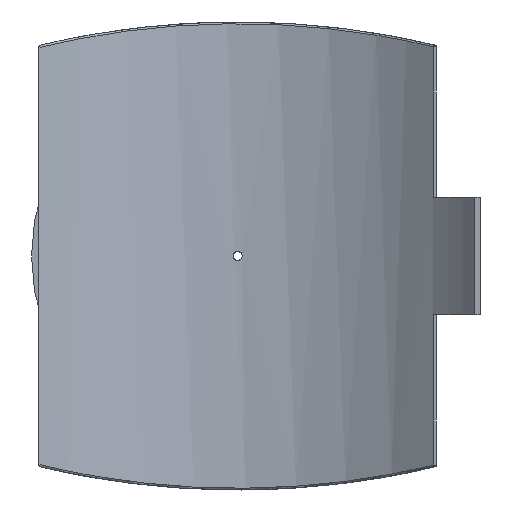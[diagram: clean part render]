
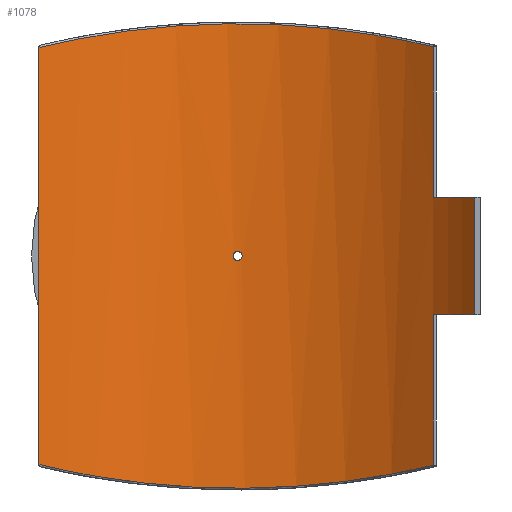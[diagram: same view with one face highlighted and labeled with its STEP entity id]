
A CAD part, front view. The second image highlights one B-rep face of the part: STEP entity #1078.
In plain terms, the highlighted cylindrical face has radius 355 mm (diameter 710 mm), a partial arc.
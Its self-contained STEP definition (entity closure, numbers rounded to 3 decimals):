
#55=FACE_BOUND('',#355,.T.);
#109=B_SPLINE_CURVE_WITH_KNOTS('',3,(#2210,#2211,#2212,#2213,#2214,#2215,
#2216,#2217,#2218,#2219),.UNSPECIFIED.,.F.,.F.,(4,1,1,1,1,1,1,4),(-55.85,
-48.857,-41.864,-34.871,-27.877,
-20.884,-13.891,-6.898),.UNSPECIFIED.);
#110=B_SPLINE_CURVE_WITH_KNOTS('',3,(#2228,#2229,#2230,#2231,#2232,#2233,
#2234,#2235,#2236,#2237),.UNSPECIFIED.,.F.,.F.,(4,1,1,1,1,1,1,4),(-50.886,
-43.893,-36.9,-29.907,-22.914,
-15.921,-8.927,-1.934),.UNSPECIFIED.);
#111=B_SPLINE_CURVE_WITH_KNOTS('',3,(#2240,#2241,#2242,#2243,#2244,#2245,
#2246,#2247,#2248,#2249),.UNSPECIFIED.,.F.,.F.,(4,2,2,2,4),(0.,0.196,
0.392,0.588,0.784),.UNSPECIFIED.);
#112=B_SPLINE_CURVE_WITH_KNOTS('',3,(#2250,#2251,#2252,#2253,#2254,#2255,
#2256,#2257,#2258,#2259,#2260,#2261,#2262,#2263,#2264,#2265,#2266,#2267,
#2268,#2269,#2270,#2271,#2272,#2273,#2274,#2275),.UNSPECIFIED.,.F.,.F.,
(4,2,2,2,2,2,2,2,2,2,2,2,4),(0.784,0.979,1.175,
1.371,1.567,1.763,1.959,2.155,
2.351,2.546,2.742,2.938,3.134),
 .UNSPECIFIED.);
#133=LINE('',#1615,#184);
#144=LINE('',#1899,#195);
#151=LINE('',#2224,#202);
#152=LINE('',#2227,#203);
#184=VECTOR('',#1292,10.);
#195=VECTOR('',#1331,10.);
#202=VECTOR('',#1368,10.);
#203=VECTOR('',#1371,10.);
#244=CYLINDRICAL_SURFACE('',#1175,355.);
#288=FACE_OUTER_BOUND('',#354,.T.);
#354=EDGE_LOOP('',(#839,#840,#841,#842,#843,#844,#845,#846));
#355=EDGE_LOOP('',(#847,#848));
#449=CIRCLE('',#1176,355.);
#450=CIRCLE('',#1177,355.);
#510=VERTEX_POINT('',#1606);
#513=VERTEX_POINT('',#1613);
#533=VERTEX_POINT('',#1892);
#536=VERTEX_POINT('',#1897);
#549=VERTEX_POINT('',#2193);
#550=VERTEX_POINT('',#2221);
#551=VERTEX_POINT('',#2223);
#552=VERTEX_POINT('',#2226);
#553=VERTEX_POINT('',#2238);
#554=VERTEX_POINT('',#2239);
#613=EDGE_CURVE('',#513,#510,#133,.T.);
#643=EDGE_CURVE('',#536,#533,#144,.T.);
#666=EDGE_CURVE('',#549,#536,#109,.T.);
#667=EDGE_CURVE('',#550,#513,#449,.T.);
#668=EDGE_CURVE('',#550,#551,#151,.T.);
#669=EDGE_CURVE('',#533,#551,#450,.T.);
#670=EDGE_CURVE('',#552,#549,#152,.T.);
#671=EDGE_CURVE('',#510,#552,#110,.T.);
#672=EDGE_CURVE('',#553,#554,#111,.T.);
#673=EDGE_CURVE('',#554,#553,#112,.T.);
#839=ORIENTED_EDGE('',*,*,#667,.F.);
#840=ORIENTED_EDGE('',*,*,#668,.T.);
#841=ORIENTED_EDGE('',*,*,#669,.F.);
#842=ORIENTED_EDGE('',*,*,#643,.F.);
#843=ORIENTED_EDGE('',*,*,#666,.F.);
#844=ORIENTED_EDGE('',*,*,#670,.F.);
#845=ORIENTED_EDGE('',*,*,#671,.F.);
#846=ORIENTED_EDGE('',*,*,#613,.F.);
#847=ORIENTED_EDGE('',*,*,#672,.T.);
#848=ORIENTED_EDGE('',*,*,#673,.T.);
#1078=ADVANCED_FACE('',(#288,#55),#244,.F.);
#1175=AXIS2_PLACEMENT_3D('',#2220,#1364,#1365);
#1176=AXIS2_PLACEMENT_3D('',#2222,#1366,#1367);
#1177=AXIS2_PLACEMENT_3D('',#2225,#1369,#1370);
#1292=DIRECTION('',(0.,0.,-1.));
#1331=DIRECTION('',(0.,0.,-1.));
#1364=DIRECTION('center_axis',(0.,0.,1.));
#1365=DIRECTION('ref_axis',(-1.,0.,0.));
#1366=DIRECTION('center_axis',(0.,0.,1.));
#1367=DIRECTION('ref_axis',(-0.756,-0.655,0.));
#1368=DIRECTION('',(0.,0.,1.));
#1369=DIRECTION('center_axis',(0.,0.,-1.));
#1370=DIRECTION('ref_axis',(-0.756,-0.655,0.));
#1371=DIRECTION('',(0.,0.,1.));
#1606=CARTESIAN_POINT('',(221.751,277.221,-236.92));
#1613=CARTESIAN_POINT('',(221.751,277.221,-66.25));
#1615=CARTESIAN_POINT('',(221.751,277.221,0.));
#1892=CARTESIAN_POINT('',(221.751,277.221,66.25));
#1897=CARTESIAN_POINT('',(221.751,277.221,236.92));
#1899=CARTESIAN_POINT('',(221.751,277.221,0.));
#2193=CARTESIAN_POINT('',(-225.,274.591,236.139));
#2210=CARTESIAN_POINT('Ctrl Pts',(-225.,274.591,236.139));
#2211=CARTESIAN_POINT('Ctrl Pts',(-207.375,289.032,240.408));
#2212=CARTESIAN_POINT('Ctrl Pts',(-169.273,314.57,248.566));
#2213=CARTESIAN_POINT('Ctrl Pts',(-105.403,341.354,257.956));
#2214=CARTESIAN_POINT('Ctrl Pts',(-37.09,355.348,263.126));
#2215=CARTESIAN_POINT('Ctrl Pts',(32.83,355.769,263.286));
#2216=CARTESIAN_POINT('Ctrl Pts',(101.327,342.587,258.404));
#2217=CARTESIAN_POINT('Ctrl Pts',(165.539,316.553,249.238));
#2218=CARTESIAN_POINT('Ctrl Pts',(203.953,291.458,241.165));
#2219=CARTESIAN_POINT('Ctrl Pts',(221.751,277.221,236.92));
#2220=CARTESIAN_POINT('Origin',(0.,0.,0.));
#2221=CARTESIAN_POINT('',(268.237,232.538,-66.25));
#2222=CARTESIAN_POINT('Origin',(0.,0.,
-66.25));
#2223=CARTESIAN_POINT('',(268.237,232.538,66.25));
#2224=CARTESIAN_POINT('',(268.237,232.538,0.));
#2225=CARTESIAN_POINT('Origin',(0.,0.,
66.25));
#2226=CARTESIAN_POINT('',(-225.,274.591,-236.139));
#2227=CARTESIAN_POINT('',(-225.,274.591,0.));
#2228=CARTESIAN_POINT('Ctrl Pts',(221.751,277.221,-236.92));
#2229=CARTESIAN_POINT('Ctrl Pts',(203.953,291.458,-241.165));
#2230=CARTESIAN_POINT('Ctrl Pts',(165.539,316.553,-249.238));
#2231=CARTESIAN_POINT('Ctrl Pts',(101.327,342.587,-258.405));
#2232=CARTESIAN_POINT('Ctrl Pts',(32.83,355.768,-263.284));
#2233=CARTESIAN_POINT('Ctrl Pts',(-37.09,355.349,-263.128));
#2234=CARTESIAN_POINT('Ctrl Pts',(-105.403,341.353,-257.955));
#2235=CARTESIAN_POINT('Ctrl Pts',(-169.273,314.57,-248.566));
#2236=CARTESIAN_POINT('Ctrl Pts',(-207.375,289.032,-240.408));
#2237=CARTESIAN_POINT('Ctrl Pts',(-225.,274.591,-236.139));
#2238=CARTESIAN_POINT('',(5.2,354.962,0.));
#2239=CARTESIAN_POINT('',(0.,355.,-5.2));
#2240=CARTESIAN_POINT('Ctrl Pts',(5.2,354.962,0.));
#2241=CARTESIAN_POINT('Ctrl Pts',(5.2,354.962,-0.653));
#2242=CARTESIAN_POINT('Ctrl Pts',(5.07,354.964,-1.349));
#2243=CARTESIAN_POINT('Ctrl Pts',(4.539,354.971,-2.631));
#2244=CARTESIAN_POINT('Ctrl Pts',(4.139,354.976,-3.215));
#2245=CARTESIAN_POINT('Ctrl Pts',(3.215,354.986,-4.139));
#2246=CARTESIAN_POINT('Ctrl Pts',(2.631,354.991,-4.539));
#2247=CARTESIAN_POINT('Ctrl Pts',(1.349,354.998,-5.07));
#2248=CARTESIAN_POINT('Ctrl Pts',(0.653,355.,-5.2));
#2249=CARTESIAN_POINT('Ctrl Pts',(0.,355.,-5.2));
#2250=CARTESIAN_POINT('Ctrl Pts',(0.,355.,-5.2));
#2251=CARTESIAN_POINT('Ctrl Pts',(-0.653,355.,-5.2));
#2252=CARTESIAN_POINT('Ctrl Pts',(-1.349,354.998,-5.07));
#2253=CARTESIAN_POINT('Ctrl Pts',(-2.631,354.991,-4.539));
#2254=CARTESIAN_POINT('Ctrl Pts',(-3.215,354.986,-4.139));
#2255=CARTESIAN_POINT('Ctrl Pts',(-4.139,354.976,-3.215));
#2256=CARTESIAN_POINT('Ctrl Pts',(-4.539,354.971,-2.631));
#2257=CARTESIAN_POINT('Ctrl Pts',(-5.07,354.964,-1.349));
#2258=CARTESIAN_POINT('Ctrl Pts',(-5.2,354.962,-0.653));
#2259=CARTESIAN_POINT('Ctrl Pts',(-5.2,354.962,0.653));
#2260=CARTESIAN_POINT('Ctrl Pts',(-5.07,354.964,1.349));
#2261=CARTESIAN_POINT('Ctrl Pts',(-4.539,354.971,2.631));
#2262=CARTESIAN_POINT('Ctrl Pts',(-4.139,354.976,3.215));
#2263=CARTESIAN_POINT('Ctrl Pts',(-3.215,354.986,4.139));
#2264=CARTESIAN_POINT('Ctrl Pts',(-2.631,354.991,4.539));
#2265=CARTESIAN_POINT('Ctrl Pts',(-1.349,354.998,5.07));
#2266=CARTESIAN_POINT('Ctrl Pts',(-0.653,355.,5.2));
#2267=CARTESIAN_POINT('Ctrl Pts',(0.653,355.,5.2));
#2268=CARTESIAN_POINT('Ctrl Pts',(1.349,354.998,5.07));
#2269=CARTESIAN_POINT('Ctrl Pts',(2.631,354.991,4.539));
#2270=CARTESIAN_POINT('Ctrl Pts',(3.215,354.986,4.139));
#2271=CARTESIAN_POINT('Ctrl Pts',(4.139,354.976,3.215));
#2272=CARTESIAN_POINT('Ctrl Pts',(4.539,354.971,2.631));
#2273=CARTESIAN_POINT('Ctrl Pts',(5.07,354.964,1.349));
#2274=CARTESIAN_POINT('Ctrl Pts',(5.2,354.962,0.653));
#2275=CARTESIAN_POINT('Ctrl Pts',(5.2,354.962,0.));
